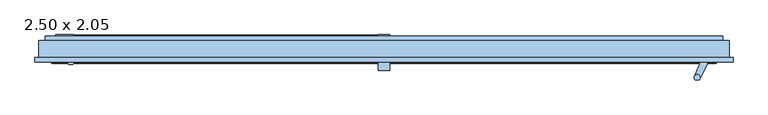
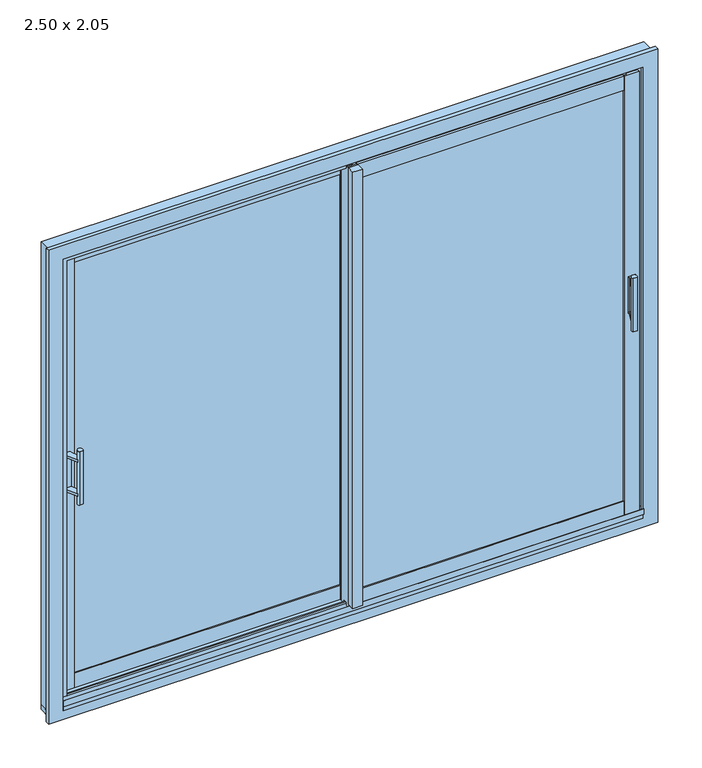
"""IFC4 building model written with IfcOpenShell, lengths in millimetres: window geometry, K-LINE COULISSANT applique-KLBC2R-2V : 2.50 x 2.05."""

import ifcopenshell
import ifcopenshell.guid

model = None  # the IFC model being written
_history = None  # IfcOwnerHistory: only IFC2X3 demands one
_inside = {}  # id of a spatial element -> (the spatial element, [elements in it])
_under = {}  # id of a project, library or spatial element -> (it, [spatial elements below it])
_declared = {}  # id of a project -> (the project, [libraries it declares])
_typed = {}  # id of a type object -> (the type object, [elements of that type])
_made_of = {}  # id of a material, layer set ... -> (it, [elements and type objects made of it])


def new_model(schema):
    """Start an empty IFC model of exactly this schema.

    Asked for "IFC4X3", IfcOpenShell would pick the latest addendum, in which some entities
    have other attributes; the version numbers below select the first issue.
    IFC2X3 requires an IfcOwnerHistory on every rooted entity: one is made here for all.
    """
    global model, _history
    if schema == "IFC4X3":
        model = ifcopenshell.file(schema_version=(4, 3, 0, 0))
    else:
        model = ifcopenshell.file(schema=schema)
    _inside.clear()
    _under.clear()
    _declared.clear()
    _typed.clear()
    _made_of.clear()
    _history = None
    if model.schema == "IFC2X3":
        org = make("IfcOrganization", Name="unknown")
        user = make(
            "IfcPersonAndOrganization",
            ThePerson=make("IfcPerson", FamilyName="unknown"),
            TheOrganization=org,
        )
        app = make(
            "IfcApplication",
            ApplicationDeveloper=org,
            Version="unknown",
            ApplicationFullName="unknown",
            ApplicationIdentifier="unknown",
        )
        _history = make(
            "IfcOwnerHistory",
            OwningUser=user,
            OwningApplication=app,
            ChangeAction="ADDED",
            CreationDate=0,
        )
    return model


def make(cls, **values):
    """One entity of the class cls with the attributes given. An attribute that is None is left unset."""
    return model.create_entity(
        cls, **{name: value for name, value in values.items() if value is not None}
    )


def rooted(cls, **values):
    """An entity with a GlobalId (a new one), such as an element, a storey or a relation."""
    return make(cls, GlobalId=ifcopenshell.guid.new(), OwnerHistory=_history, **values)


def si_unit(unit_type, name, prefix=None):
    """IfcSIUnit, for example si_unit("LENGTHUNIT", "METRE", prefix="MILLI")."""
    return make("IfcSIUnit", UnitType=unit_type, Prefix=prefix, Name=name)


def assignment(units):
    """IfcUnitAssignment: the units of a project."""
    return None if units is None else make("IfcUnitAssignment", Units=units)


def point(xyz):
    """IfcCartesianPoint."""
    return None if xyz is None else make("IfcCartesianPoint", Coordinates=xyz)


def direction(xyz):
    """IfcDirection."""
    return None if xyz is None else make("IfcDirection", DirectionRatios=xyz)


def frame(location, z_axis=None, x_axis=None):
    """IfcAxis2Placement3D, a coordinate frame: its origin and axes. An axis left out is left unset."""
    return make(
        "IfcAxis2Placement3D",
        Location=point(location),
        Axis=direction(z_axis),
        RefDirection=direction(x_axis),
    )


def origin():
    """The frame at (0, 0, 0) with its axes left unset."""
    return frame((0.0, 0.0, 0.0))


def origin_with_axes():
    """The frame at (0, 0, 0) with the z axis (0, 0, 1) and the x axis (1, 0, 0) written out."""
    return frame((0.0, 0.0, 0.0), z_axis=(0.0, 0.0, 1.0), x_axis=(1.0, 0.0, 0.0))


def place(relative_to, where):
    """IfcLocalPlacement: puts the frame where relative to a parent placement (None: the world)."""
    return make(
        "IfcLocalPlacement", PlacementRelTo=relative_to, RelativePlacement=where
    )


def context(
    kind, dimensions, precision=None, world=None, true_north=None, identifier=None
):
    """IfcGeometricRepresentationContext, for example the 3D "Model" context."""
    return make(
        "IfcGeometricRepresentationContext",
        ContextIdentifier=identifier,
        ContextType=kind,
        CoordinateSpaceDimension=dimensions,
        Precision=precision,
        WorldCoordinateSystem=world,
        TrueNorth=true_north,
    )


def project(units=None, contexts=None):
    """IfcProject with its units and contexts."""
    return rooted(
        "IfcProject",
        Name="project",
        RepresentationContexts=contexts,
        UnitsInContext=assignment(units),
    )


def spatial(cls, under=None, at=None, **own):
    """A site, building, storey or space (cls), placed at a placement, below another one or the project."""
    s = rooted(cls, ObjectPlacement=at, **own)
    if under is not None:
        _under.setdefault(under.id(), (under, []))[1].append(s)
    return s


def polyline(points):
    """IfcPolyline through the points."""
    return make("IfcPolyline", Points=[point(p) for p in points])


def circle_curve(where, radius):
    """IfcCircle in the frame where."""
    return make("IfcCircle", Position=where, Radius=radius)


def outline(outer, holes=None, kind="AREA"):
    """IfcArbitraryClosedProfileDef: a profile drawn as a closed curve; with holes, ...WithVoids."""
    if holes is None:
        return make("IfcArbitraryClosedProfileDef", ProfileType=kind, OuterCurve=outer)
    return make(
        "IfcArbitraryProfileDefWithVoids",
        ProfileType=kind,
        OuterCurve=outer,
        InnerCurves=holes,
    )


def extrude(swept, where, along, depth):
    """IfcExtrudedAreaSolid: the profile swept, set in the frame where, extruded along a direction by depth."""
    return make(
        "IfcExtrudedAreaSolid",
        SweptArea=swept,
        Position=where,
        ExtrudedDirection=direction(along),
        Depth=depth,
    )


def faces_of(points, faces, orient=None, outer=None):
    """IfcFace entities. A face is a list of loops; a loop is a list of indices into points, from 0.

    orient and outer hold one flag for each loop. By default every Orientation is true, the
    first loop of a face is its IfcFaceOuterBound and the others are IfcFaceBound.
    """
    made = []
    for i, loops in enumerate(faces):
        bounds = []
        for j, loop in enumerate(loops):
            is_outer = j == 0 if outer is None else outer[i][j]
            bounds.append(
                make(
                    "IfcFaceOuterBound" if is_outer else "IfcFaceBound",
                    Bound=make("IfcPolyLoop", Polygon=[points[k] for k in loop]),
                    Orientation=True if orient is None else orient[i][j],
                )
            )
        made.append(make("IfcFace", Bounds=bounds))
    return made


def faceted_brep(points, faces, orient=None, outer=None, voids=None):
    """IfcFacetedBrep: a solid bounded by flat faces; with voids (closed shells), ...WithVoids."""
    shared = [point(p) for p in points]
    hull = make("IfcClosedShell", CfsFaces=faces_of(shared, faces, orient, outer))
    if voids is None:
        return make("IfcFacetedBrep", Outer=hull)
    return make(
        "IfcFacetedBrepWithVoids",
        Outer=hull,
        Voids=[
            make(cls, CfsFaces=faces_of(shared, fs, o, b)) for cls, fs, o, b in voids
        ],
    )


def shape(context_of_items, identifier, shape_type, items):
    """IfcShapeRepresentation: the items that make up one representation, for example the "Body"."""
    return make(
        "IfcShapeRepresentation",
        ContextOfItems=context_of_items,
        RepresentationIdentifier=identifier,
        RepresentationType=shape_type,
        Items=items,
    )


def source(mapping_origin, context_of_items, identifier, shape_type, items):
    """IfcRepresentationMap: a shape defined once, which mapped items show again and again."""
    return make(
        "IfcRepresentationMap",
        MappingOrigin=mapping_origin,
        MappedRepresentation=shape(context_of_items, identifier, shape_type, items),
    )


def transform(
    local_origin,
    x_axis=None,
    y_axis=None,
    z_axis=None,
    scale=None,
    scale2=None,
    scale3=None,
    uniform=True,
):
    """IfcCartesianTransformationOperator3D, or its non-uniform kind. x_axis, y_axis, z_axis: its Axis1, 2, 3."""
    if uniform:
        return make(
            "IfcCartesianTransformationOperator3D",
            Axis1=direction(x_axis),
            Axis2=direction(y_axis),
            LocalOrigin=point(local_origin),
            Scale=scale,
            Axis3=direction(z_axis),
        )
    return make(
        "IfcCartesianTransformationOperator3DnonUniform",
        Axis1=direction(x_axis),
        Axis2=direction(y_axis),
        LocalOrigin=point(local_origin),
        Scale=scale,
        Axis3=direction(z_axis),
        Scale2=scale2,
        Scale3=scale3,
    )


def mapped(mapping_source, mapping_target):
    """IfcMappedItem: shows the shape of a source again, moved by a transform."""
    return make(
        "IfcMappedItem", MappingSource=mapping_source, MappingTarget=mapping_target
    )


def made_of(thing, what):
    """Note that an element or type object is made of a material, layer set ...; save() writes the relation."""
    if what is not None:
        _made_of.setdefault(what.id(), (what, []))[1].append(thing)
    return thing


def element(
    cls,
    number,
    at=None,
    inside=None,
    cuts=None,
    type_object=None,
    material=None,
    context=None,
    identifier="Body",
    shape_type=None,
    held_by="IfcProductDefinitionShape",
    body=None,
    shapes=None,
    **own,
):
    """One element of the class cls, such as IfcWall. Its Tag is "e" and its number.

    at: its placement. inside: the storey or other place that contains it. cuts: it is an
    opening in that element (IfcRelVoidsElement). A single representation is given by context,
    identifier, shape_type and body (its items); several are given by shapes. held_by: the class
    of the entity that holds the representations. save() writes the other relations.
    """
    e = rooted(cls, Tag="e%d" % number, ObjectPlacement=at, **own)
    if body is not None:
        shapes = [shape(context, identifier, shape_type, body)]
    if shapes is not None:
        e.Representation = make(held_by, Representations=shapes)
    if inside is not None:
        _inside.setdefault(inside.id(), (inside, []))[1].append(e)
    if cuts is not None:
        rooted(
            "IfcRelVoidsElement", RelatingBuildingElement=cuts, RelatedOpeningElement=e
        )
    if type_object is not None:
        _typed.setdefault(type_object.id(), (type_object, []))[1].append(e)
    return made_of(e, material)


def aggregate(whole, parts):
    """IfcRelAggregates: a whole, such as a stair, and the parts it consists of."""
    return rooted("IfcRelAggregates", RelatingObject=whole, RelatedObjects=parts)


def save(model, path):
    """Write the relations noted so far, then the file.

    IfcRelAggregates (storeys below a building ...), IfcRelContainedInSpatialStructure (elements
    in a storey), IfcRelDefinesByType, IfcRelAssociatesMaterial and IfcRelDeclares: one each for
    every whole, place, type object, material and project.
    """
    for whole, parts in _under.values():
        aggregate(whole, parts)
    for where, things in _inside.values():
        rooted(
            "IfcRelContainedInSpatialStructure",
            RelatedElements=things,
            RelatingStructure=where,
        )
    for kind, things in _typed.values():
        rooted("IfcRelDefinesByType", RelatedObjects=things, RelatingType=kind)
    for what, things in _made_of.values():
        rooted("IfcRelAssociatesMaterial", RelatedObjects=things, RelatingMaterial=what)
    for by, libraries in _declared.values():
        rooted("IfcRelDeclares", RelatingContext=by, RelatedDefinitions=libraries)
    model.write(path)


def plane_surface(at):
    """IfcPlane: the flat surface through the origin of the frame at, square to its z axis."""
    return make("IfcPlane", Position=at)


def cylinder_surface(at, radius):
    """IfcCylindricalSurface: all points at the distance radius from the z axis of the frame at."""
    return make("IfcCylindricalSurface", Position=at, Radius=radius)


def advanced_brep(points, edges, surfaces, faces):
    """IfcAdvancedBrep: a solid bounded by faces that lie on surfaces and meet in shared edges.

    An edge is (start, end): straight between two places in points (the first is 0);
    or (start, end, curve); or (start, end, curve, False) where it runs against its curve.
    A face is (place in surfaces, loops), or (place, loops, False) where it looks against
    its surface's normal. A loop lists edges by number (the first is 1), with a minus sign
    where the edge is run from its end to its start. The first loop is the outer one.
    """
    corners = [point(p) for p in points]
    vertices = [make("IfcVertexPoint", VertexGeometry=c) for c in corners]
    made = []
    for start, end, *more in edges:
        made.append(
            make(
                "IfcEdgeCurve",
                EdgeStart=vertices[start],
                EdgeEnd=vertices[end],
                EdgeGeometry=more[0] if more else make("IfcPolyline", Points=[corners[start], corners[end]]),
                SameSense=more[1] if len(more) > 1 else True,
            )
        )
    hull = []
    for where, loops, *sense in faces:
        bounds = []
        for j, loop in enumerate(loops):
            ring = [make("IfcOrientedEdge", EdgeElement=made[abs(k) - 1], Orientation=k > 0) for k in loop]
            bounds.append(
                make(
                    "IfcFaceOuterBound" if j == 0 else "IfcFaceBound",
                    Bound=make("IfcEdgeLoop", EdgeList=ring),
                    Orientation=True,
                )
            )
        hull.append(make("IfcAdvancedFace", Bounds=bounds, FaceSurface=surfaces[where], SameSense=sense[0] if sense else True))
    return make("IfcAdvancedBrep", Outer=make("IfcClosedShell", CfsFaces=hull))


def window_2_50_x_2_05_4c13a54c(model_context):
    return source(origin(), model_context, "Body", "SolidModel", [
        extrude(outline(polyline([(1139.7, -52.25), (5.0, -52.25), (5.0, -24.25), (1139.7, -24.25), (1139.7, -52.25)])), frame((0.0, 0.0, 112.0), z_axis=(0.0, 0.0, 1.0), x_axis=(1.0, 0.0, 0.0)), (0.0, 0.0, 1.0), 1829.0),
        advanced_brep(
        [(1169.7, -60.0, 1106.5), (1141.7, -60.0, 1106.5), (1141.7, -67.0, 1106.5), (1124.4130019, -110.2519585, 1106.5), (1143.8288485, -119.4273049, 1106.5), (1169.7, -67.0, 1106.5), (1169.7, -60.0, 946.5), (1169.7, -67.0, 946.5), (1143.8288485, -119.4273049, 946.5), (1124.4130019, -110.2519585, 946.5), (1141.7, -67.0, 946.5), (1141.7, -60.0, 946.5), (1141.7, -67.0, 957.3), (1141.7, -67.0, 1095.7), (1169.7, -67.0, 957.3), (1169.7, -67.0, 1095.7), (1143.8288485, -119.4273049, 957.3), (1124.4130019, -110.2519585, 957.3), (1124.4130019, -110.2519585, 1095.7), (1143.8288485, -119.4273049, 1095.7), (1125.5501656, -125.0, 1143.5), (1140.6498344, -125.0, 1143.5), (1125.5501656, -125.0, 909.5), (1140.6498344, -125.0, 909.5)],
        [
            (0, 1),
            (1, 2),
            (2, 3),
            (3, 4, circle_curve(frame((1133.1, -117.0, 1106.5), z_axis=(0.0, 0.0, -1.0), x_axis=(1.0, 0.0, 0.0)), 11.0)),
            (4, 5),
            (5, 0),
            (6, 7),
            (7, 8),
            (8, 9, circle_curve(frame((1133.1, -117.0, 946.5), z_axis=(0.0, 0.0, 1.0), x_axis=(1.0, 0.0, 0.0)), 11.0)),
            (9, 10),
            (10, 11),
            (11, 6),
            (0, 6),
            (11, 1),
            (10, 12),
            (12, 13),
            (13, 2),
            (12, 14),
            (14, 15),
            (15, 13),
            (5, 15),
            (14, 7),
            (16, 14),
            (12, 17),
            (17, 16, circle_curve(frame((1133.1, -117.0, 957.3), z_axis=(0.0, 0.0, -1.0), x_axis=(1.0, 0.0, 0.0)), 11.0)),
            (16, 8),
            (9, 17),
            (18, 13),
            (15, 19),
            (19, 18, circle_curve(frame((1133.1, -117.0, 1095.7), z_axis=(0.0, 0.0, 1.0), x_axis=(1.0, 0.0, 0.0)), 11.0)),
            (4, 19),
            (18, 3),
            (20, 21),
            (21, 20, circle_curve(frame((1133.1, -117.0, 1143.5), z_axis=(0.0, 0.0, 1.0), x_axis=(1.0, 0.0, 0.0)), 11.0)),
            (22, 23, circle_curve(frame((1133.1, -117.0, 909.5), z_axis=(0.0, 0.0, -1.0), x_axis=(1.0, 0.0, 0.0)), 11.0)),
            (23, 22),
            (20, 22),
            (23, 21),
        ],
        [
            plane_surface(frame((1148.2679799, -60.0, 1106.5), z_axis=(0.0, 0.0, 1.0), x_axis=(-1.0, 0.0, 0.0))),
            plane_surface(frame((1148.2679799, -60.0, 946.5), z_axis=(0.0, 0.0, -1.0), x_axis=(1.0, 0.0, 0.0))),
            plane_surface(frame((1169.7, -60.0, 1106.5), z_axis=(0.0, 1.0, 0.0), x_axis=(0.0, 0.0, -1.0))),
            plane_surface(frame((1141.7, -60.0, 1106.5), z_axis=(-1.0, 0.0, 0.0), x_axis=(0.0, 0.0, -1.0))),
            plane_surface(frame((1141.7, -67.0, 1106.5), z_axis=(0.0, -1.0, 0.0), x_axis=(0.0, 0.0, -1.0))),
            plane_surface(frame((1169.7, -67.0, 1106.5), z_axis=(1.0, 0.0, 0.0), x_axis=(0.0, 0.0, -1.0))),
            plane_surface(frame((1144.1, -117.0, 957.3), z_axis=(0.0, 0.0, 1.0), x_axis=(0.0, -1.0, 0.0))),
            plane_surface(frame((1143.8288485, -119.4273049, 957.3), z_axis=(0.8967582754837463, -0.4425207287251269, 0.0), x_axis=(0.0, 0.0, -1.0))),
            plane_surface(frame((1141.7, -67.0, 957.3), z_axis=(-0.9285787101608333, 0.37113552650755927, 0.0), x_axis=(0.0, 0.0, -1.0))),
            plane_surface(frame((1144.1, -117.0, 1095.7), z_axis=(0.0, 0.0, -1.0), x_axis=(0.0, 1.0, 0.0))),
            plane_surface(frame((1143.8288485, -119.4273049, 1106.5), z_axis=(0.8967582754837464, -0.44252072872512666, 0.0), x_axis=(0.0, 0.0, -1.0))),
            plane_surface(frame((1141.7, -67.0, 1106.5), z_axis=(-0.9285787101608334, 0.37113552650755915, 0.0), x_axis=(0.0, 0.0, -1.0))),
            plane_surface(frame((1125.5501656, -125.0, 1143.5), z_axis=(0.0, 0.0, 1.0), x_axis=(1.0, 0.0, 0.0))),
            plane_surface(frame((1125.5501656, -125.0, 909.5), z_axis=(0.0, 0.0, -1.0), x_axis=(-1.0, 0.0, 0.0))),
            plane_surface(frame((1125.5501656, -125.0, 1143.5), z_axis=(0.0, -1.0, 0.0), x_axis=(0.0, 0.0, -1.0))),
            cylinder_surface(frame((1133.1, -117.0, 909.5), z_axis=(0.0, 0.0, 1.0), x_axis=(1.0, 0.0, 0.0)), 11.0),
        ],
        [
            (0, [[1, 2, 3, 4, 5, 6]]),
            (1, [[7, 8, 9, 10, 11, 12]]),
            (2, [[-1, 13, -12, 14]]),
            (3, [[-2, -14, -11, 15, 16, 17]]),
            (4, [[18, 19, 20, -16]]),
            (5, [[-6, 21, -19, 22, -7, -13]]),
            (6, [[23, -18, 24, 25]]),
            (7, [[-23, 26, -8, -22]]),
            (8, [[-24, -15, -10, 27]]),
            (9, [[28, -20, 29, 30]]),
            (10, [[-5, 31, -29, -21]]),
            (11, [[-3, -17, -28, 32]]),
            (12, [[33, 34]]),
            (13, [[35, 36]]),
            (14, [[-33, 37, -36, 38]]),
            (15, [[-34, -38, -35, -37], [-4, -32, -30, -31], [-9, -26, -25, -27]]),
        ],
    ),
        extrude(outline(polyline([(20.0, -92.0), (-20.0, -92.0), (-20.0, -60.0), (20.0, -60.0), (20.0, -92.0)])), frame((0.0, 0.0, 77.0), z_axis=(0.0, 0.0, 1.0), x_axis=(1.0, 0.0, 0.0)), (0.0, 0.0, 1.0), 1912.0),
        faceted_brep([(0.0, -10.0, 1989.0), (-17.0, -10.0, 1989.0), (-17.0, -30.25, 1989.0), (5.0, -30.25, 1989.0), (5.0, -24.25, 1989.0), (20.0, -24.25, 1989.0), (20.0, -16.5, 1989.0), (0.0, -16.5, 1989.0), (5.0, -52.25, 1989.0), (5.0, -46.25, 1989.0), (-17.0, -46.25, 1989.0), (-17.0, -52.25, 1989.0), (0.0, -10.0, 64.0), (0.0, -16.5, 64.0), (20.0, -16.5, 64.0), (20.0, -24.25, 64.0), (5.0, -24.25, 64.0), (5.0, -30.25, 64.0), (-17.0, -30.25, 64.0), (-17.0, -10.0, 64.0), (-17.0, -52.25, 64.0), (-17.0, -46.25, 64.0), (5.0, -46.25, 64.0), (5.0, -52.25, 64.0), (5.0, -30.25, 1976.0), (5.0, -46.25, 1976.0), (5.0, -46.25, 77.0), (5.0, -30.25, 77.0), (-17.0, -46.25, 1976.0), (-17.0, -30.25, 1976.0), (-17.0, -30.25, 77.0), (-17.0, -46.25, 77.0)], [[[0, 1, 2, 3, 4, 5, 6, 7]], [[8, 9, 10, 11]], [[12, 13, 14, 15, 16, 17, 18, 19]], [[20, 21, 22, 23]], [[7, 13, 12, 0]], [[6, 14, 13, 7]], [[5, 15, 14, 6]], [[4, 16, 15, 5]], [[4, 3, 24, 25, 9, 8, 23, 22, 26, 27, 17, 16]], [[11, 20, 23, 8]], [[11, 10, 28, 29, 2, 1, 19, 18, 30, 31, 21, 20]], [[0, 12, 19, 1]], [[31, 30, 27, 26]], [[30, 18, 17, 27]], [[26, 22, 21, 31]], [[28, 10, 9, 25]], [[24, 3, 2, 29]], [[25, 24, 29, 28]]]),
        faceted_brep([(-17.0, -52.25, 1989.0), (-17.0, -46.25, 1989.0), (-20.0, -46.25, 1989.0), (-20.0, -60.0, 1989.0), (20.0, -60.0, 1989.0), (20.0, -52.25, 1989.0), (-20.0, -10.0, 1989.0), (-20.0, -30.25, 1989.0), (-17.0, -30.25, 1989.0), (-17.0, -10.0, 1989.0), (-17.0, -10.0, 64.0), (-17.0, -30.25, 64.0), (-20.0, -30.25, 64.0), (-20.0, -10.0, 64.0), (-20.0, -60.0, 64.0), (-20.0, -46.25, 64.0), (-17.0, -46.25, 64.0), (-17.0, -52.25, 64.0), (20.0, -52.25, 64.0), (20.0, -60.0, 64.0), (-20.0, -30.25, 77.0), (-20.0, -46.25, 77.0), (-20.0, -46.25, 1976.0), (-20.0, -30.25, 1976.0), (-17.0, -30.25, 1976.0), (-17.0, -46.25, 1976.0), (-17.0, -46.25, 77.0), (-17.0, -30.25, 77.0)], [[[0, 1, 2, 3, 4, 5]], [[6, 7, 8, 9]], [[10, 11, 12, 13]], [[14, 15, 16, 17, 18, 19]], [[9, 10, 13, 6]], [[13, 12, 20, 21, 15, 14, 3, 2, 22, 23, 7, 6]], [[3, 14, 19, 4]], [[4, 19, 18, 5]], [[5, 18, 17, 0]], [[9, 8, 24, 25, 1, 0, 17, 16, 26, 27, 11, 10]], [[21, 20, 27, 26]], [[20, 12, 11, 27]], [[26, 16, 15, 21]], [[22, 2, 1, 25]], [[24, 8, 7, 23]], [[25, 24, 23, 22]]]),
        extrude(outline(polyline([(-58.25, 64.0), (-58.25, 126.0), (-52.25, 126.0), (-52.25, 112.0), (-38.25, 112.0), (-38.25, 77.0), (-46.25, 77.0), (-46.25, 64.0), (-58.25, 64.0)])), frame((20.0, 0.0, 0.0), z_axis=(1.0, 0.0, 0.0), x_axis=(0.0, 1.0, 0.0)), (0.0, 0.0, 1.0), 1104.7),
        extrude(outline(polyline([(-58.25, 1989.0), (-46.25, 1989.0), (-46.25, 1976.0), (-38.25, 1976.0), (-38.25, 1941.0), (-52.25, 1941.0), (-52.25, 1927.0), (-58.25, 1927.0), (-58.25, 1989.0)])), frame((20.0, 0.0, 0.0), z_axis=(1.0, 0.0, 0.0), x_axis=(0.0, 1.0, 0.0)), (0.0, 0.0, 1.0), 1104.7),
        faceted_brep([(1187.2, -16.5, 1989.0), (1124.7, -16.5, 1989.0), (1124.7, -24.25, 1989.0), (1139.7, -24.25, 1989.0), (1139.7, -30.25, 1989.0), (1187.2, -30.25, 1989.0), (1187.2, -16.5, 64.0), (1187.2, -30.25, 64.0), (1139.7, -30.25, 64.0), (1139.7, -24.25, 64.0), (1124.7, -24.25, 64.0), (1124.7, -16.5, 64.0), (1139.7, -30.25, 77.0), (1139.7, -38.25, 77.0), (1139.7, -38.25, 1976.0), (1139.7, -30.25, 1976.0), (1174.2, -38.25, 77.0), (1174.2, -38.25, 1976.0), (1174.2, -30.25, 77.0), (1174.2, -30.25, 1976.0)], [[[0, 1, 2, 3, 4, 5]], [[6, 7, 8, 9, 10, 11]], [[0, 6, 11, 1]], [[1, 11, 10, 2]], [[2, 10, 9, 3]], [[9, 8, 12, 13, 14, 15, 4, 3]], [[13, 16, 17, 14]], [[16, 18, 19, 17]], [[8, 7, 5, 4, 15, 19, 18, 12]], [[7, 6, 0, 5]], [[18, 16, 13, 12]], [[15, 14, 17, 19]]]),
        faceted_brep([(1187.2, -60.0, 1989.0), (1187.2, -46.25, 1989.0), (1139.7, -46.25, 1989.0), (1139.7, -52.25, 1989.0), (1124.7, -52.25, 1989.0), (1124.7, -60.0, 1989.0), (1187.2, -60.0, 64.0), (1124.7, -60.0, 64.0), (1124.7, -52.25, 64.0), (1139.7, -52.25, 64.0), (1139.7, -46.25, 64.0), (1187.2, -46.25, 64.0), (1139.7, -46.25, 1976.0), (1139.7, -38.25, 1976.0), (1139.7, -38.25, 77.0), (1139.7, -46.25, 77.0), (1174.2, -38.25, 1976.0), (1174.2, -38.25, 77.0), (1174.2, -46.25, 1976.0), (1174.2, -46.25, 77.0)], [[[0, 1, 2, 3, 4, 5]], [[6, 7, 8, 9, 10, 11]], [[5, 7, 6, 0]], [[4, 8, 7, 5]], [[3, 9, 8, 4]], [[3, 2, 12, 13, 14, 15, 10, 9]], [[13, 16, 17, 14]], [[16, 18, 19, 17]], [[2, 1, 11, 10, 15, 19, 18, 12]], [[0, 6, 11, 1]], [[15, 14, 17, 19]], [[18, 16, 13, 12]]]),
        extrude(outline(polyline([(-18.25, 64.0), (-30.25, 64.0), (-30.25, 77.0), (-38.25, 77.0), (-38.25, 112.0), (-24.25, 112.0), (-24.25, 126.0), (-18.25, 126.0), (-18.25, 64.0)])), frame((20.0, 0.0, 0.0), z_axis=(1.0, 0.0, 0.0), x_axis=(0.0, 1.0, 0.0)), (0.0, 0.0, 1.0), 1104.7),
        extrude(outline(polyline([(-18.25, 1989.0), (-18.25, 1927.0), (-24.25, 1927.0), (-24.25, 1941.0), (-38.25, 1941.0), (-38.25, 1976.0), (-30.25, 1976.0), (-30.25, 1989.0), (-18.25, 1989.0)])), frame((20.0, 0.0, 0.0), z_axis=(1.0, 0.0, 0.0), x_axis=(0.0, 1.0, 0.0)), (0.0, 0.0, 1.0), 1104.7),
        extrude(outline(polyline([(-1139.7, 2.75), (-1139.7, 30.75), (-5.0, 30.75), (-5.0, 2.75), (-1139.7, 2.75)])), frame((0.0, 0.0, 112.0), z_axis=(0.0, 0.0, 1.0), x_axis=(1.0, 0.0, 0.0)), (0.0, 0.0, 1.0), 1829.0),
        advanced_brep(
        [(-1169.7, -5.0, 1106.5), (-1169.7, -12.0, 1106.5), (-1143.8288485, -64.4273049, 1106.5), (-1124.4130019, -55.2519585, 1106.5), (-1141.7, -12.0, 1106.5), (-1141.7, -5.0, 1106.5), (-1169.7, -5.0, 946.5), (-1141.7, -5.0, 946.5), (-1141.7, -12.0, 946.5), (-1124.4130019, -55.2519585, 946.5), (-1143.8288485, -64.4273049, 946.5), (-1169.7, -12.0, 946.5), (-1141.7, -12.0, 1095.7), (-1141.7, -12.0, 957.3), (-1169.7, -12.0, 1095.7), (-1169.7, -12.0, 957.3), (-1143.8288485, -64.4273049, 957.3), (-1124.4130019, -55.2519585, 957.3), (-1124.4130019, -55.2519585, 1095.7), (-1143.8288485, -64.4273049, 1095.7), (-1125.5501656, -70.0, 1143.5), (-1140.6498344, -70.0, 1143.5), (-1125.5501656, -70.0, 909.5), (-1140.6498344, -70.0, 909.5)],
        [
            (0, 1),
            (1, 2),
            (2, 3, circle_curve(frame((-1133.1, -62.0, 1106.5), z_axis=(0.0, 0.0, -1.0), x_axis=(-1.0, 0.0, 0.0)), 11.0)),
            (3, 4),
            (4, 5),
            (5, 0),
            (6, 7),
            (7, 8),
            (8, 9),
            (9, 10, circle_curve(frame((-1133.1, -62.0, 946.5), z_axis=(0.0, 0.0, 1.0), x_axis=(-1.0, 0.0, 0.0)), 11.0)),
            (10, 11),
            (11, 6),
            (5, 7),
            (6, 0),
            (4, 12),
            (12, 13),
            (13, 8),
            (12, 14),
            (14, 15),
            (15, 13),
            (11, 15),
            (14, 1),
            (16, 17, circle_curve(frame((-1133.1, -62.0, 957.3), z_axis=(0.0, 0.0, -1.0), x_axis=(-1.0, 0.0, 0.0)), 11.0)),
            (17, 13),
            (15, 16),
            (10, 16),
            (17, 9),
            (18, 19, circle_curve(frame((-1133.1, -62.0, 1095.7), z_axis=(0.0, 0.0, 1.0), x_axis=(-1.0, 0.0, 0.0)), 11.0)),
            (19, 14),
            (12, 18),
            (19, 2),
            (3, 18),
            (20, 21, circle_curve(frame((-1133.1, -62.0, 1143.5), z_axis=(0.0, 0.0, 1.0), x_axis=(-1.0, 0.0, 0.0)), 11.0)),
            (21, 20),
            (22, 23),
            (23, 22, circle_curve(frame((-1133.1, -62.0, 909.5), z_axis=(0.0, 0.0, -1.0), x_axis=(-1.0, 0.0, 0.0)), 11.0)),
            (21, 23),
            (22, 20),
        ],
        [
            plane_surface(frame((-1148.2679799, -5.0, 1106.5), z_axis=(0.0, 0.0, 1.0), x_axis=(1.0, 0.0, 0.0))),
            plane_surface(frame((-1148.2679799, -5.0, 946.5), z_axis=(0.0, 0.0, -1.0), x_axis=(-1.0, 0.0, 0.0))),
            plane_surface(frame((-1169.7, -5.0, 1106.5), z_axis=(0.0, 1.0, 0.0), x_axis=(0.0, 0.0, -1.0))),
            plane_surface(frame((-1141.7, -5.0, 1106.5), z_axis=(1.0, 0.0, 0.0), x_axis=(0.0, 0.0, -1.0))),
            plane_surface(frame((-1141.7, -12.0, 1106.5), z_axis=(0.0, -1.0, 0.0), x_axis=(0.0, 0.0, -1.0))),
            plane_surface(frame((-1169.7, -12.0, 1106.5), z_axis=(-1.0, 0.0, 0.0), x_axis=(0.0, 0.0, -1.0))),
            plane_surface(frame((-1144.1, -62.0, 957.3), z_axis=(0.0, 0.0, 1.0), x_axis=(0.0, -1.0, 0.0))),
            plane_surface(frame((-1143.8288485, -64.4273049, 957.3), z_axis=(-0.8967582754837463, -0.4425207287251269, 0.0), x_axis=(0.0, 0.0, -1.0))),
            plane_surface(frame((-1141.7, -12.0, 957.3), z_axis=(0.9285787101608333, 0.37113552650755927, 0.0), x_axis=(0.0, 0.0, -1.0))),
            plane_surface(frame((-1144.1, -62.0, 1095.7), z_axis=(0.0, 0.0, -1.0), x_axis=(0.0, 1.0, 0.0))),
            plane_surface(frame((-1143.8288485, -64.4273049, 1106.5), z_axis=(-0.8967582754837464, -0.44252072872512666, 0.0), x_axis=(0.0, 0.0, -1.0))),
            plane_surface(frame((-1141.7, -12.0, 1106.5), z_axis=(0.9285787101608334, 0.37113552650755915, 0.0), x_axis=(0.0, 0.0, -1.0))),
            plane_surface(frame((-1125.5501656, -70.0, 1143.5), z_axis=(0.0, 0.0, 1.0), x_axis=(-1.0, 0.0, 0.0))),
            plane_surface(frame((-1125.5501656, -70.0, 909.5), z_axis=(0.0, 0.0, -1.0), x_axis=(1.0, 0.0, 0.0))),
            plane_surface(frame((-1125.5501656, -70.0, 1143.5), z_axis=(0.0, -1.0, 0.0), x_axis=(0.0, 0.0, -1.0))),
            cylinder_surface(frame((-1133.1, -62.0, 909.5), z_axis=(0.0, 0.0, 1.0), x_axis=(-1.0, 0.0, 0.0)), 11.0),
        ],
        [
            (0, [[1, 2, 3, 4, 5, 6]]),
            (1, [[7, 8, 9, 10, 11, 12]]),
            (2, [[13, -7, 14, -6]]),
            (3, [[15, 16, 17, -8, -13, -5]]),
            (4, [[-16, 18, 19, 20]]),
            (5, [[-14, -12, 21, -19, 22, -1]]),
            (6, [[23, 24, -20, 25]]),
            (7, [[-21, -11, 26, -25]]),
            (8, [[27, -9, -17, -24]]),
            (9, [[28, 29, -18, 30]]),
            (10, [[-22, -29, 31, -2]]),
            (11, [[32, -30, -15, -4]]),
            (12, [[33, 34]]),
            (13, [[35, 36]]),
            (14, [[37, -35, 38, -34]]),
            (15, [[-38, -36, -37, -33], [-27, -23, -26, -10], [-31, -28, -32, -3]]),
        ],
    ),
        extrude(outline(polyline([(-3.25, 64.0), (-3.25, 126.0), (2.75, 126.0), (2.75, 112.0), (16.75, 112.0), (16.75, 77.0), (8.75, 77.0), (8.75, 64.0), (-3.25, 64.0)])), frame((-1124.7, 0.0, 0.0), z_axis=(1.0, 0.0, 0.0), x_axis=(0.0, 1.0, 0.0)), (0.0, 0.0, 1.0), 1104.7),
        extrude(outline(polyline([(-3.25, 1989.0), (8.75, 1989.0), (8.75, 1976.0), (16.75, 1976.0), (16.75, 1941.0), (2.75, 1941.0), (2.75, 1927.0), (-3.25, 1927.0), (-3.25, 1989.0)])), frame((-1124.7, 0.0, 0.0), z_axis=(1.0, 0.0, 0.0), x_axis=(0.0, 1.0, 0.0)), (0.0, 0.0, 1.0), 1104.7),
        faceted_brep([(-1187.2, 38.5, 1989.0), (-1187.2, 24.75, 1989.0), (-1139.7, 24.75, 1989.0), (-1139.7, 30.75, 1989.0), (-1124.7, 30.75, 1989.0), (-1124.7, 38.5, 1989.0), (-1187.2, 38.5, 64.0), (-1124.7, 38.5, 64.0), (-1124.7, 30.75, 64.0), (-1139.7, 30.75, 64.0), (-1139.7, 24.75, 64.0), (-1187.2, 24.75, 64.0), (-1139.7, 24.75, 1976.0), (-1139.7, 16.75, 1976.0), (-1139.7, 16.75, 77.0), (-1139.7, 24.75, 77.0), (-1174.2, 16.75, 1976.0), (-1174.2, 16.75, 77.0), (-1174.2, 24.75, 1976.0), (-1174.2, 24.75, 77.0)], [[[0, 1, 2, 3, 4, 5]], [[6, 7, 8, 9, 10, 11]], [[0, 5, 7, 6]], [[5, 4, 8, 7]], [[4, 3, 9, 8]], [[9, 3, 2, 12, 13, 14, 15, 10]], [[14, 13, 16, 17]], [[17, 16, 18, 19]], [[10, 15, 19, 18, 12, 2, 1, 11]], [[11, 1, 0, 6]], [[19, 15, 14, 17]], [[12, 18, 16, 13]]]),
        faceted_brep([(-1187.2, -5.0, 1989.0), (-1124.7, -5.0, 1989.0), (-1124.7, 2.75, 1989.0), (-1139.7, 2.75, 1989.0), (-1139.7, 8.75, 1989.0), (-1187.2, 8.75, 1989.0), (-1187.2, -5.0, 64.0), (-1187.2, 8.75, 64.0), (-1139.7, 8.75, 64.0), (-1139.7, 2.75, 64.0), (-1124.7, 2.75, 64.0), (-1124.7, -5.0, 64.0), (-1139.7, 8.75, 77.0), (-1139.7, 16.75, 77.0), (-1139.7, 16.75, 1976.0), (-1139.7, 8.75, 1976.0), (-1174.2, 16.75, 77.0), (-1174.2, 16.75, 1976.0), (-1174.2, 8.75, 77.0), (-1174.2, 8.75, 1976.0)], [[[0, 1, 2, 3, 4, 5]], [[6, 7, 8, 9, 10, 11]], [[1, 0, 6, 11]], [[2, 1, 11, 10]], [[3, 2, 10, 9]], [[3, 9, 8, 12, 13, 14, 15, 4]], [[14, 13, 16, 17]], [[17, 16, 18, 19]], [[4, 15, 19, 18, 12, 8, 7, 5]], [[0, 5, 7, 6]], [[12, 18, 16, 13]], [[19, 15, 14, 17]]]),
        faceted_brep([(0.0, -11.5, 1989.0), (17.0, -11.5, 1989.0), (17.0, 8.75, 1989.0), (-5.0, 8.75, 1989.0), (-5.0, 2.75, 1989.0), (-20.0, 2.75, 1989.0), (-20.0, -5.0, 1989.0), (0.0, -5.0, 1989.0), (17.0, 30.75, 1989.0), (-5.0, 30.75, 1989.0), (-5.0, 24.75, 1989.0), (17.0, 24.75, 1989.0), (0.0, -11.5, 64.0), (0.0, -5.0, 64.0), (-20.0, -5.0, 64.0), (-20.0, 2.75, 64.0), (-5.0, 2.75, 64.0), (-5.0, 8.75, 64.0), (17.0, 8.75, 64.0), (17.0, -11.5, 64.0), (-5.0, 30.75, 64.0), (17.0, 30.75, 64.0), (17.0, 24.75, 64.0), (-5.0, 24.75, 64.0), (17.0, 8.75, 77.0), (17.0, 24.75, 77.0), (17.0, 24.75, 1976.0), (17.0, 8.75, 1976.0), (-5.0, 24.75, 77.0), (-5.0, 8.75, 77.0), (-5.0, 8.75, 1976.0), (-5.0, 24.75, 1976.0)], [[[0, 1, 2, 3, 4, 5, 6, 7]], [[8, 9, 10, 11]], [[12, 13, 14, 15, 16, 17, 18, 19]], [[20, 21, 22, 23]], [[1, 0, 12, 19]], [[1, 19, 18, 24, 25, 22, 21, 8, 11, 26, 27, 2]], [[9, 8, 21, 20]], [[9, 20, 23, 28, 29, 17, 16, 4, 3, 30, 31, 10]], [[5, 4, 16, 15]], [[6, 5, 15, 14]], [[7, 6, 14, 13]], [[0, 7, 13, 12]], [[24, 29, 28, 25]], [[25, 28, 23, 22]], [[29, 24, 18, 17]], [[27, 30, 3, 2]], [[31, 26, 11, 10]], [[30, 27, 26, 31]]]),
        faceted_brep([(17.0, -11.5, 1989.0), (20.0, -11.5, 1989.0), (20.0, 8.75, 1989.0), (17.0, 8.75, 1989.0), (20.0, 38.5, 1989.0), (-20.0, 38.5, 1989.0), (-20.0, 30.75, 1989.0), (17.0, 30.75, 1989.0), (17.0, 24.75, 1989.0), (20.0, 24.75, 1989.0), (17.0, 30.75, 64.0), (-20.0, 30.75, 64.0), (-20.0, 38.5, 64.0), (20.0, 38.5, 64.0), (20.0, 24.75, 64.0), (17.0, 24.75, 64.0), (20.0, -11.5, 64.0), (17.0, -11.5, 64.0), (17.0, 8.75, 64.0), (20.0, 8.75, 64.0), (20.0, 8.75, 77.0), (20.0, 24.75, 77.0), (20.0, 24.75, 1976.0), (20.0, 8.75, 1976.0), (17.0, 8.75, 1976.0), (17.0, 24.75, 1976.0), (17.0, 24.75, 77.0), (17.0, 8.75, 77.0)], [[[0, 1, 2, 3]], [[4, 5, 6, 7, 8, 9]], [[10, 11, 12, 13, 14, 15]], [[16, 17, 18, 19]], [[1, 0, 17, 16]], [[1, 16, 19, 20, 21, 14, 13, 4, 9, 22, 23, 2]], [[5, 4, 13, 12]], [[6, 5, 12, 11]], [[7, 6, 11, 10]], [[17, 0, 3, 24, 25, 8, 7, 10, 15, 26, 27, 18]], [[20, 27, 26, 21]], [[21, 26, 15, 14]], [[27, 20, 19, 18]], [[23, 24, 3, 2]], [[25, 22, 9, 8]], [[24, 23, 22, 25]]]),
        extrude(outline(polyline([(36.75, 64.0), (24.75, 64.0), (24.75, 77.0), (16.75, 77.0), (16.75, 112.0), (30.75, 112.0), (30.75, 126.0), (36.75, 126.0), (36.75, 64.0)])), frame((-1124.7, 0.0, 0.0), z_axis=(1.0, 0.0, 0.0), x_axis=(0.0, 1.0, 0.0)), (0.0, 0.0, 1.0), 1104.7),
        extrude(outline(polyline([(36.75, 1989.0), (36.75, 1927.0), (30.75, 1927.0), (30.75, 1941.0), (16.75, 1941.0), (16.75, 1976.0), (24.75, 1976.0), (24.75, 1989.0), (36.75, 1989.0)])), frame((-1124.7, 0.0, 0.0), z_axis=(1.0, 0.0, 0.0), x_axis=(0.0, 1.0, 0.0)), (0.0, 0.0, 1.0), 1104.7),
        extrude(outline(polyline([(1250.0, 16.75), (1250.0, -43.25), (-1250.0, -43.25), (-1250.0, 16.75), (1250.0, 16.75)])), origin_with_axes(), (0.0, 0.0, 1.0), 20.0),
        extrude(outline(polyline([(20.0, -1250.0), (20.0, -1230.0), (2030.0, -1230.0), (2030.0, 1230.0), (20.0, 1230.0), (20.0, 1250.0), (2050.0, 1250.0), (2050.0, -1250.0), (20.0, -1250.0)])), frame((0.0, -43.25, 0.0), z_axis=(0.0, 1.0, 0.0), x_axis=(0.0, 0.0, 1.0)), (0.0, 0.0, 1.0), 60.0),
        extrude(outline(polyline([(-31.7148472, 25.0), (-60.0, 25.0), (-60.0, 45.8), (-65.0002992, 45.8), (-65.0002992, 70.2), (-63.0002992, 70.2), (-63.0002992, 47.8), (-45.75, 47.8), (-45.75, 71.8), (-31.7148472, 71.8), (-31.7148472, 25.0)])), frame((-1202.2, 0.0, 0.0), z_axis=(1.0, 0.0, 0.0), x_axis=(0.0, 1.0, 0.0)), (0.0, 0.0, 1.0), 2404.4),
        extrude(outline(polyline([(9.25, 58.8), (9.25, 72.5920221), (16.7674344, 74.2973715), (24.25, 72.5999321), (24.25, 71.8), (10.285168, 71.8), (10.285168, 25.0), (-31.7148472, 25.0), (-31.7148472, 71.8), (-45.75, 71.8), (-45.75, 72.6000641), (-38.2325655, 74.2973715), (-30.75, 72.6079369), (-30.75, 58.8), (9.25, 58.8)])), frame((-1178.2, 0.0, 0.0), z_axis=(1.0, 0.0, 0.0), x_axis=(0.0, 1.0, 0.0)), (0.0, 0.0, 1.0), 2356.4),
        extrude(outline(polyline([(25.0, 1191.2), (25.0, 1225.0), (2025.0, 1225.0), (2025.0, -1225.0), (25.0, -1225.0), (25.0, -1191.2), (1991.2, -1191.2), (1991.2, 1191.2), (25.0, 1191.2)])), frame((0.0, -30.75, 0.0), z_axis=(0.0, 1.0, 0.0), x_axis=(0.0, 0.0, 1.0)), (0.0, 0.0, 1.0), 40.0),
        faceted_brep([(1202.2, -45.75, 47.8), (1202.2, -60.0, 47.8), (1202.2, -60.0, 2002.2), (1202.2, -45.75, 2002.2), (1178.2, -30.75, 71.8), (1178.2, -45.75, 71.8), (1178.2, -45.75, 1978.2), (1178.2, -30.75, 1978.2), (1225.0, -43.25, 25.0), (1225.0, -30.75, 25.0), (1225.0, -30.75, 2025.0), (1225.0, -43.25, 2025.0), (-1202.2, -60.0, 2002.2), (-1202.2, -45.75, 2002.2), (-1178.2, -45.75, 1978.2), (-1178.2, -30.75, 1978.2), (-1225.0, -30.75, 2025.0), (-1225.0, -43.25, 2025.0), (-1202.2, -60.0, 47.8), (-1202.2, -45.75, 47.8), (-1178.2, -45.75, 71.8), (-1178.2, -30.75, 71.8), (-1225.0, -30.75, 25.0), (-1225.0, -43.25, 25.0), (1263.0, -60.0, 2063.0), (-1263.0, -60.0, 2063.0), (-1263.0, -60.0, -13.0), (1263.0, -60.0, -13.0), (1263.0, -43.25, 2063.0), (-1263.0, -43.25, 2063.0), (-1263.0, -43.25, -13.0), (1263.0, -43.25, -13.0)], [[[0, 1, 2, 3]], [[4, 5, 6, 7]], [[8, 9, 10, 11]], [[3, 2, 12, 13]], [[7, 6, 14, 15]], [[11, 10, 16, 17]], [[13, 12, 18, 19]], [[15, 14, 20, 21]], [[17, 16, 22, 23]], [[19, 18, 1, 0]], [[3, 13, 19, 0], [5, 20, 14, 6]], [[21, 20, 5, 4]], [[9, 22, 16, 10], [7, 15, 21, 4]], [[23, 22, 9, 8]], [[24, 25, 26, 27], [1, 18, 12, 2]], [[24, 28, 29, 25]], [[25, 29, 30, 26]], [[26, 30, 31, 27]], [[28, 31, 30, 29], [17, 23, 8, 11]], [[27, 31, 28, 24]]]),
        faceted_brep([(1204.2, 11.7499771, 45.8), (1204.2, 24.25, 45.8), (1204.2, 24.25, 2004.2), (1204.2, 11.7499771, 2004.2), (1214.2, 34.25, 35.8), (1214.2, 11.7499771, 35.8), (1214.2, 11.7499771, 2014.2), (1214.2, 34.25, 2014.2), (1225.0, 9.25, 25.0), (1225.0, 34.25, 25.0), (1225.0, 34.25, 2025.0), (1225.0, 9.25, 2025.0), (1178.2, 24.25, 71.8), (1178.2, 9.25, 71.8), (1178.2, 9.25, 1978.2), (1178.2, 24.25, 1978.2), (-1204.2, 24.25, 2004.2), (-1204.2, 11.7499771, 2004.2), (-1214.2, 11.7499771, 2014.2), (-1214.2, 34.25, 2014.2), (-1225.0, 34.25, 2025.0), (-1225.0, 9.25, 2025.0), (-1178.2, 9.25, 1978.2), (-1178.2, 24.25, 1978.2), (-1204.2, 24.25, 45.8), (-1204.2, 11.7499771, 45.8), (-1214.2, 11.7499771, 35.8), (-1214.2, 34.25, 35.8), (-1225.0, 34.25, 25.0), (-1225.0, 9.25, 25.0), (-1178.2, 9.25, 71.8), (-1178.2, 24.25, 71.8)], [[[0, 1, 2, 3]], [[4, 5, 6, 7]], [[8, 9, 10, 11]], [[12, 13, 14, 15]], [[3, 2, 16, 17]], [[7, 6, 18, 19]], [[11, 10, 20, 21]], [[15, 14, 22, 23]], [[17, 16, 24, 25]], [[19, 18, 26, 27]], [[21, 20, 28, 29]], [[23, 22, 30, 31]], [[25, 24, 1, 0]], [[5, 26, 18, 6], [3, 17, 25, 0]], [[27, 26, 5, 4]], [[9, 28, 20, 10], [7, 19, 27, 4]], [[29, 28, 9, 8]], [[11, 21, 29, 8], [13, 30, 22, 14]], [[31, 30, 13, 12]], [[1, 24, 16, 2], [15, 23, 31, 12]]]),
    ])


if __name__ == "__main__":
    model = new_model("IFC4")
    model_context = context("Model", 3, world=origin())
    ifc_project = project(units=[si_unit("LENGTHUNIT", "METRE", prefix="MILLI")], contexts=[model_context])
    site = spatial("IfcSite", under=ifc_project)
    building = spatial("IfcBuilding", under=site)
    placement = place(None, origin())
    window_2_50_x_2_05_shape = window_2_50_x_2_05_4c13a54c(model_context)
    element("IfcWindow", 1, ObjectType="K-LINE COULISSANT applique-KLBC2R-2V : 2.50 x 2.05", at=placement, inside=building, context=model_context, shape_type="MappedRepresentation", body=[
        mapped(window_2_50_x_2_05_shape, transform((0.0, 0.0, 0.0), x_axis=(1.0, 0.0, 0.0), y_axis=(0.0, 1.0, 0.0), z_axis=(0.0, 0.0, 1.0))),
    ])
    save(model, "model.ifc")
